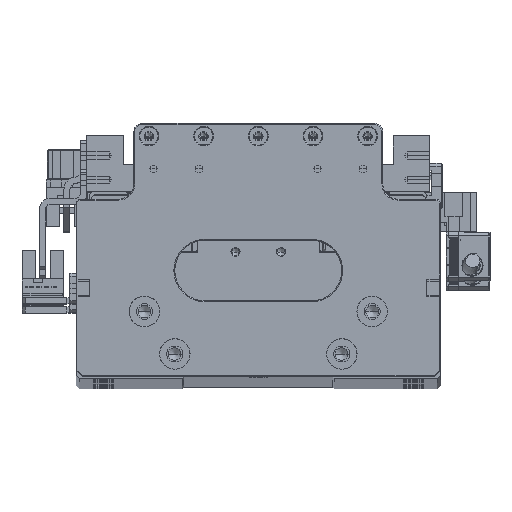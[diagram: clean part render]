
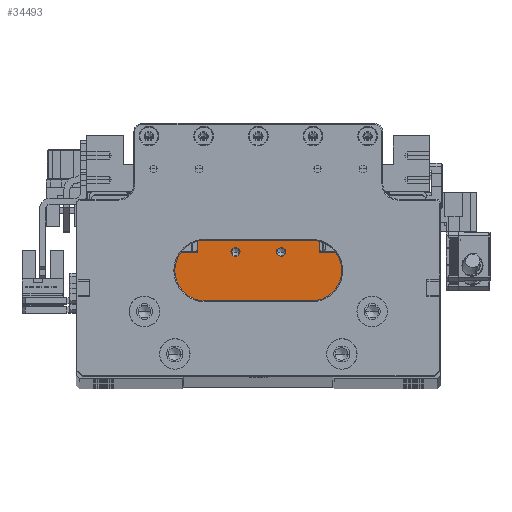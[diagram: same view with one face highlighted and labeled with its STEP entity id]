
A CAD part, top view. The second image highlights one B-rep face of the part: STEP entity #34493.
In plain terms, the highlighted planar face has unit normal (0, 0, 1).
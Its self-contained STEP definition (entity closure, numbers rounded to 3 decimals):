
#3515 = DIRECTION ( 'NONE',  ( 1., 0., 0. ) ) ;
#3944 = LINE ( 'NONE', #52623, #107932 ) ;
#5124 = CARTESIAN_POINT ( 'NONE',  ( 20., 29.7, 83.854 ) ) ;
#5257 = CARTESIAN_POINT ( 'NONE',  ( -7.5, 25.8, 83.854 ) ) ;
#6007 = EDGE_CURVE ( 'NONE', #56931, #110125, #110844, .T. ) ;
#8728 = CIRCLE ( 'NONE', #104906, 1.525 ) ;
#8878 = CARTESIAN_POINT ( 'NONE',  ( 29.9, 18.2, 83.854 ) ) ;
#9140 = EDGE_CURVE ( 'NONE', #21936, #120577, #8728, .T. ) ;
#10348 = FACE_OUTER_BOUND ( 'NONE', #119362, .T. ) ;
#12852 = LINE ( 'NONE', #95250, #36566 ) ;
#13258 = CARTESIAN_POINT ( 'NONE',  ( -29.9, 6.5, 83.854 ) ) ;
#15033 = CARTESIAN_POINT ( 'NONE',  ( -7.5, 25.7, 83.854 ) ) ;
#15084 = VERTEX_POINT ( 'NONE', #129564 ) ;
#15397 = DIRECTION ( 'NONE',  ( 1., 0., 0. ) ) ;
#17410 = CARTESIAN_POINT ( 'NONE',  ( -20., 25.7, 83.854 ) ) ;
#17571 = DIRECTION ( 'NONE',  ( 0., 0., -1. ) ) ;
#21018 = VECTOR ( 'NONE', #93418, 1000. ) ;
#21447 = DIRECTION ( 'NONE',  ( 0., 0., 1. ) ) ;
#21936 = VERTEX_POINT ( 'NONE', #68706 ) ;
#22511 = AXIS2_PLACEMENT_3D ( 'NONE', #93100, #32857, #103236 ) ;
#25182 = ORIENTED_EDGE ( 'NONE', *, *, #9140, .F. ) ;
#25259 = DIRECTION ( 'NONE',  ( 1., 0., 0. ) ) ;
#26930 = ORIENTED_EDGE ( 'NONE', *, *, #114814, .F. ) ;
#29061 = CARTESIAN_POINT ( 'NONE',  ( 20., 25.7, 83.854 ) ) ;
#32857 = DIRECTION ( 'NONE',  ( 0., 0., 1. ) ) ;
#33064 = CARTESIAN_POINT ( 'NONE',  ( -5.975, 25.8, 83.854 ) ) ;
#34493 = ADVANCED_FACE ( 'NONE', ( #10348, #114343, #37254 ), #128035, .F. ) ;
#35917 = VERTEX_POINT ( 'NONE', #5124 ) ;
#36566 = VECTOR ( 'NONE', #25259, 1000. ) ;
#37195 = VECTOR ( 'NONE', #3515, 1000. ) ;
#37254 = FACE_BOUND ( 'NONE', #77392, .T. ) ;
#40793 = EDGE_CURVE ( 'NONE', #120577, #21936, #129549, .T. ) ;
#41032 = VECTOR ( 'NONE', #79900, 1000. ) ;
#42355 = VERTEX_POINT ( 'NONE', #97150 ) ;
#47804 = LINE ( 'NONE', #83743, #21018 ) ;
#48220 = ORIENTED_EDGE ( 'NONE', *, *, #52210, .F. ) ;
#50046 = VERTEX_POINT ( 'NONE', #81095 ) ;
#52094 = DIRECTION ( 'NONE',  ( 0., 1., 0. ) ) ;
#52210 = EDGE_CURVE ( 'NONE', #50046, #15084, #101896, .T. ) ;
#52623 = CARTESIAN_POINT ( 'NONE',  ( -7.5, 29.7, 83.854 ) ) ;
#54946 = DIRECTION ( 'NONE',  ( 0., 0., 1. ) ) ;
#56931 = VERTEX_POINT ( 'NONE', #74359 ) ;
#56941 = VERTEX_POINT ( 'NONE', #94602 ) ;
#57489 = LINE ( 'NONE', #120251, #104804 ) ;
#57622 = CARTESIAN_POINT ( 'NONE',  ( -7.5, 18.2, 83.854 ) ) ;
#57624 = ORIENTED_EDGE ( 'NONE', *, *, #78357, .F. ) ;
#58304 = ORIENTED_EDGE ( 'NONE', *, *, #61272, .T. ) ;
#61272 = EDGE_CURVE ( 'NONE', #75843, #15084, #67055, .T. ) ;
#63152 = ORIENTED_EDGE ( 'NONE', *, *, #95716, .F. ) ;
#63192 = DIRECTION ( 'NONE',  ( 1., 0., 0. ) ) ;
#67055 = LINE ( 'NONE', #73978, #37195 ) ;
#68009 = EDGE_LOOP ( 'NONE', ( #118557, #26930 ) ) ;
#68706 = CARTESIAN_POINT ( 'NONE',  ( -9.025, 25.8, 83.854 ) ) ;
#69041 = ORIENTED_EDGE ( 'NONE', *, *, #119770, .F. ) ;
#69216 = DIRECTION ( 'NONE',  ( 0., -1., 0. ) ) ;
#69783 = CARTESIAN_POINT ( 'NONE',  ( 20., 18.2, 83.854 ) ) ;
#72825 = CARTESIAN_POINT ( 'NONE',  ( 5.975, 25.8, 83.854 ) ) ;
#73978 = CARTESIAN_POINT ( 'NONE',  ( -7.5, 6.5, 83.854 ) ) ;
#73996 = VERTEX_POINT ( 'NONE', #29061 ) ;
#74043 = LINE ( 'NONE', #15033, #124418 ) ;
#74359 = CARTESIAN_POINT ( 'NONE',  ( 9.025, 25.8, 83.854 ) ) ;
#75351 = DIRECTION ( 'NONE',  ( 1., 0., 0. ) ) ;
#75727 = DIRECTION ( 'NONE',  ( 0., 0., 1. ) ) ;
#75843 = VERTEX_POINT ( 'NONE', #13258 ) ;
#77392 = EDGE_LOOP ( 'NONE', ( #125518, #25182 ) ) ;
#78357 = EDGE_CURVE ( 'NONE', #56941, #35917, #3944, .T. ) ;
#79798 = AXIS2_PLACEMENT_3D ( 'NONE', #57622, #17571, #87979 ) ;
#79900 = DIRECTION ( 'NONE',  ( 0., -1., 0. ) ) ;
#81095 = CARTESIAN_POINT ( 'NONE',  ( 29.9, 25.7, 83.854 ) ) ;
#81729 = CARTESIAN_POINT ( 'NONE',  ( -7.5, 25.8, 83.854 ) ) ;
#83743 = CARTESIAN_POINT ( 'NONE',  ( -20., 18.2, 83.854 ) ) ;
#85395 = EDGE_CURVE ( 'NONE', #119151, #56941, #47804, .T. ) ;
#87314 = ORIENTED_EDGE ( 'NONE', *, *, #85395, .F. ) ;
#87979 = DIRECTION ( 'NONE',  ( -1., 0., 0. ) ) ;
#91839 = DIRECTION ( 'NONE',  ( 1., 0., 0. ) ) ;
#93100 = CARTESIAN_POINT ( 'NONE',  ( 7.5, 25.8, 83.854 ) ) ;
#93195 = AXIS2_PLACEMENT_3D ( 'NONE', #115222, #54946, #125315 ) ;
#93418 = DIRECTION ( 'NONE',  ( 0., 1., 0. ) ) ;
#94602 = CARTESIAN_POINT ( 'NONE',  ( -20., 29.7, 83.854 ) ) ;
#95250 = CARTESIAN_POINT ( 'NONE',  ( -7.5, 25.7, 83.854 ) ) ;
#95716 = EDGE_CURVE ( 'NONE', #73996, #50046, #12852, .T. ) ;
#96057 = ORIENTED_EDGE ( 'NONE', *, *, #115172, .F. ) ;
#97150 = CARTESIAN_POINT ( 'NONE',  ( -29.9, 25.7, 83.854 ) ) ;
#97926 = EDGE_CURVE ( 'NONE', #42355, #119151, #74043, .T. ) ;
#101896 = LINE ( 'NONE', #8878, #125468 ) ;
#102188 = AXIS2_PLACEMENT_3D ( 'NONE', #81729, #21447, #91839 ) ;
#102487 = CIRCLE ( 'NONE', #93195, 1.525 ) ;
#103236 = DIRECTION ( 'NONE',  ( 1., 0., 0. ) ) ;
#104804 = VECTOR ( 'NONE', #52094, 1000. ) ;
#104906 = AXIS2_PLACEMENT_3D ( 'NONE', #5257, #75727, #15397 ) ;
#107932 = VECTOR ( 'NONE', #63192, 1000. ) ;
#110125 = VERTEX_POINT ( 'NONE', #72825 ) ;
#110844 = CIRCLE ( 'NONE', #22511, 1.525 ) ;
#114343 = FACE_BOUND ( 'NONE', #68009, .T. ) ;
#114814 = EDGE_CURVE ( 'NONE', #110125, #56931, #102487, .T. ) ;
#115172 = EDGE_CURVE ( 'NONE', #35917, #73996, #121253, .T. ) ;
#115222 = CARTESIAN_POINT ( 'NONE',  ( 7.5, 25.8, 83.854 ) ) ;
#118557 = ORIENTED_EDGE ( 'NONE', *, *, #6007, .F. ) ;
#119151 = VERTEX_POINT ( 'NONE', #17410 ) ;
#119362 = EDGE_LOOP ( 'NONE', ( #123433, #69041, #58304, #48220, #63152, #96057, #57624, #87314 ) ) ;
#119770 = EDGE_CURVE ( 'NONE', #75843, #42355, #57489, .T. ) ;
#120251 = CARTESIAN_POINT ( 'NONE',  ( -29.9, 18.2, 83.854 ) ) ;
#120577 = VERTEX_POINT ( 'NONE', #33064 ) ;
#121253 = LINE ( 'NONE', #69783, #41032 ) ;
#123433 = ORIENTED_EDGE ( 'NONE', *, *, #97926, .F. ) ;
#124418 = VECTOR ( 'NONE', #75351, 1000. ) ;
#125315 = DIRECTION ( 'NONE',  ( 1., 0., 0. ) ) ;
#125468 = VECTOR ( 'NONE', #69216, 1000. ) ;
#125518 = ORIENTED_EDGE ( 'NONE', *, *, #40793, .F. ) ;
#128035 = PLANE ( 'NONE',  #79798 ) ;
#129549 = CIRCLE ( 'NONE', #102188, 1.525 ) ;
#129564 = CARTESIAN_POINT ( 'NONE',  ( 29.9, 6.5, 83.854 ) ) ;
